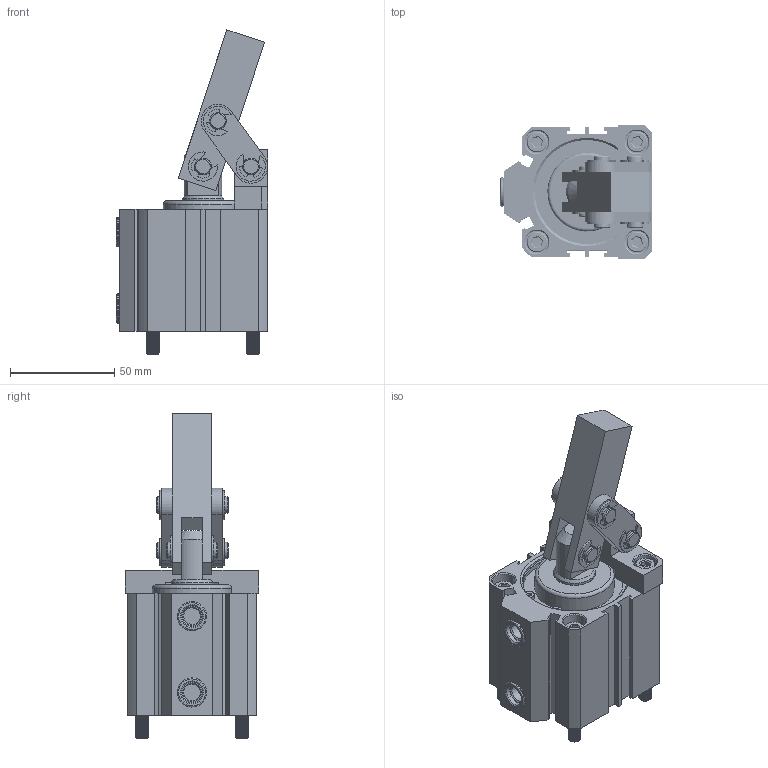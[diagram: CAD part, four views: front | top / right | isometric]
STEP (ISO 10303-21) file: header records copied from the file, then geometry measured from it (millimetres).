
FILE_DESCRIPTION(/* description */ ('STEP AP203'),/* implementation_level */ '2;1');
FILE_NAME(/* name */ 'E:\SERWER_ZAPAS\MODELE brakujace\PNEUMATIC\CALC(STEP)\CALC-50\CALC-50_OTWARTY.stp',/* time_stamp */ '2019-02-06T16:56:57+01:00',/* author */ ('Admin'),/* organization */ ('Î¢ÈíÖÐ¹ú'),/* preprocessor_version */ 'ST-DEVELOPER v17.2',/* originating_system */ 'Autodesk Inventor 2019',/* authorisation */ '');
FILE_SCHEMA (('AUTOMOTIVE_DESIGN { 1 0 10303 214 3 1 1 }'));
Products named in the file (16): CALC-50_OTWARTY; Ç°¸Ç50MS; ¿¨11; »îÈû; YABI; 1x4¶ÂÍ·MS50; 50HUOSAI¸Ë001; dyuan ; 65000301; 2000; ºó¸Ç; cang; 50±¾Ìå; 650003; lianggan; changka
Assembly tree (26 placements, depth 2):
  CALC-50_OTWARTY
    cang  x2
    ¿¨11  x2
    changka  x6
    1x4¶ÂÍ·MS50  x2
    Ç°¸Ç50MS
    »îÈû
    YABI
    65000301  x2
    lianggan  x2
    650003  x2
    50HUOSAI¸Ë001
    dyuan 
    2000
    ºó¸Ç
    50±¾Ìå
Bounding box: 72.5 x 64 x 155.78 mm (x, y, z)
Volume: 208118.3 mm3; surface area: 97355.9 mm2
Topology: 26 solids, 26 shells, 763 faces, 2107 edges, 1451 vertices
Faces by surface type: cylinder 384, plane 287, cone 47, torus 26, bspline 19
Full cylindrical faces by diameter (mm): 2 x2, 2.131 x4, 6 x188, 6.8 x6, 7 x6, 8 x20, 10 x6, 11 x24, 14 x2, 17 x1, 18 x6, 20 x2, 26.839 x1, 27.2 x1, 30.5 x1, 35 x1, 36.5 x1, 38 x1, 39 x1, 40.521 x1, 42.5 x1, 43 x1, 44 x1, 45 x1, 48.8 x1, 50 x6, 52 x4
Entity records: 38907 total; most frequent: CARTESIAN_POINT 25826, ORIENTED_EDGE 2670, DIRECTION 2554, EDGE_CURVE 1335, AXIS2_PLACEMENT_3D 983, VERTEX_POINT 929, LINE 588, VECTOR 588
